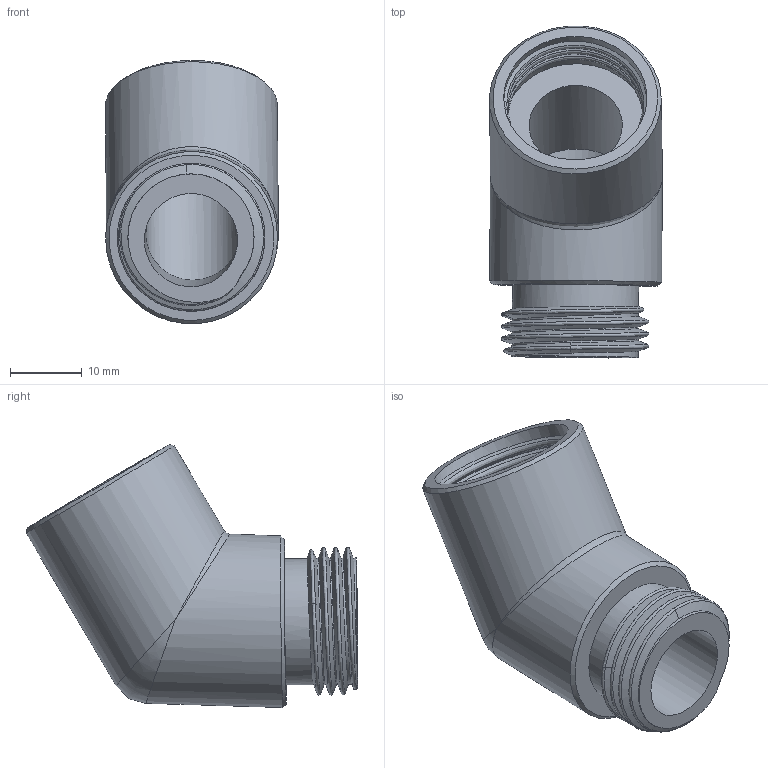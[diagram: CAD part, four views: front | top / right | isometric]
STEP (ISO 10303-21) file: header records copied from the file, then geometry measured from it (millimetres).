
FILE_DESCRIPTION(/* description */ (''),/* implementation_level */ '2;1');
FILE_NAME(/* name */ 'c:\worker\convert-fusion-r09\tmp\job-1\38\output\files\6f8af903-5147-4fb5-91ce-abf7a2c88b31\aefc81f2-342f-49a6-94aa-ac4f8e5eb897.stp',/* time_stamp */ '2019-12-14T21:20:27+00:00',/* author */ (''),/* organization */ (''),/* preprocessor_version */ 'ST-DEVELOPER v18',/* originating_system */ 'Autodesk Translation Framework v8.12.0.6',/* authorisation */ '');
FILE_SCHEMA (('AUTOMOTIVE_DESIGN { 1 0 10303 214 3 1 1 }'));
Length unit declared in the file: millimetre
Products named in the file (1): !T87
Bounding box: 24.12 x 46.29 x 36.71 mm (x, y, z)
Volume: 11811.5 mm3; surface area: 6533.2 mm2
Topology: 1 solids, 1 shells, 49 faces, 130 edges, 81 vertices
Faces by surface type: bspline 37, cylinder 7, plane 4, cone 1
Full cylindrical faces by diameter (mm): 13 x2, 20 x3, 24 x2
Entity records: 4286 total; most frequent: CARTESIAN_POINT 3302, ORIENTED_EDGE 252, DIRECTION 131, EDGE_CURVE 126, VERTEX_POINT 81, EDGE_LOOP 53, AXIS2_PLACEMENT_3D 51, FACE_OUTER_BOUND 49
